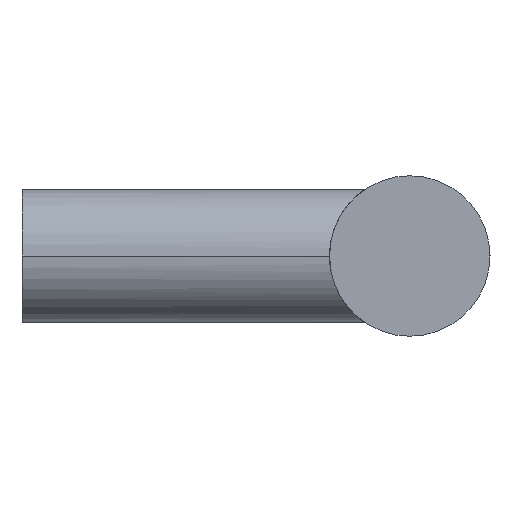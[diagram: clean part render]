
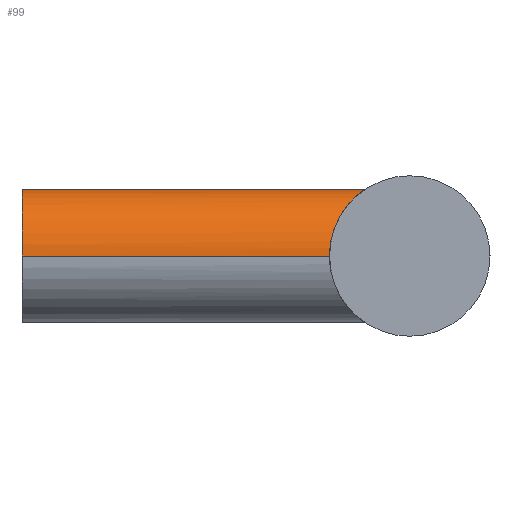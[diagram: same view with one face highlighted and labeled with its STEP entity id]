
A CAD part, left-side view. The second image highlights one B-rep face of the part: STEP entity #99.
In plain terms, the highlighted cylindrical face has radius 5 mm (diameter 10 mm), a partial arc.
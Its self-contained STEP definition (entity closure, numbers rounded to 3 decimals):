
#99 = ADVANCED_FACE( '', ( #258 ), #259, .T. );
#109 = EDGE_CURVE( '', #177, #155, #269, .T. );
#115 = EDGE_CURVE( '', #165, #229, #275, .T. );
#133 = EDGE_CURVE( '', #155, #223, #295, .T. );
#141 = EDGE_CURVE( '', #229, #177, #304, .T. );
#155 = VERTEX_POINT( '', #321 );
#165 = VERTEX_POINT( '', #333 );
#177 = VERTEX_POINT( '', #346 );
#223 = VERTEX_POINT( '', #400 );
#229 = VERTEX_POINT( '', #406 );
#231 = EDGE_CURVE( '', #223, #165, #408, .T. );
#258 = FACE_OUTER_BOUND( '', #426, .T. );
#259 = CYLINDRICAL_SURFACE( '', #427, 5. );
#269 = LINE( '', #443, #444 );
#275 = B_SPLINE_CURVE_WITH_KNOTS( '', 3, ( #452, #453, #454, #455, #456, #457, #458, #459, #460, #461, #462, #463, #464, #465, #466, #467, #468, #469 ), .UNSPECIFIED., .F., .F., ( 4, 2, 2, 2, 2, 2, 2, 2, 4 ), ( 24.483, 25.482, 26.481, 27.479, 28.478, 29.52, 30.561, 31.602, 32.643 ), .UNSPECIFIED. );
#295 = CIRCLE( '', #560, 5. );
#304 = B_SPLINE_CURVE_WITH_KNOTS( '', 3, ( #571, #572, #573, #574, #575, #576, #577, #578, #579, #580, #581, #582, #583, #584, #585, #586, #587, #588 ), .UNSPECIFIED., .F., .F., ( 4, 2, 2, 2, 2, 2, 2, 2, 4 ), ( 0., 1.041, 2.083, 3.124, 4.165, 5.164, 6.163, 7.162, 8.161 ), .UNSPECIFIED. );
#321 = CARTESIAN_POINT( '', ( -5., 0., 0. ) );
#333 = CARTESIAN_POINT( '', ( 5., -23., 0. ) );
#346 = CARTESIAN_POINT( '', ( -5., -23., 0. ) );
#400 = CARTESIAN_POINT( '', ( 5., 0., 0. ) );
#406 = CARTESIAN_POINT( '', ( 0., -25.683, 5. ) );
#408 = LINE( '', #750, #751 );
#426 = EDGE_LOOP( '', ( #767, #768, #769, #770, #771 ) );
#427 = AXIS2_PLACEMENT_3D( '', #772, #773, #774 );
#443 = CARTESIAN_POINT( '', ( -5., 0., 0. ) );
#444 = VECTOR( '', #785, 1. );
#452 = CARTESIAN_POINT( '', ( 5., -23., 0. ) );
#453 = CARTESIAN_POINT( '', ( 5., -23., 0.333 ) );
#454 = CARTESIAN_POINT( '', ( 4.966, -23.028, 0.672 ) );
#455 = CARTESIAN_POINT( '', ( 4.83, -23.141, 1.335 ) );
#456 = CARTESIAN_POINT( '', ( 4.728, -23.225, 1.659 ) );
#457 = CARTESIAN_POINT( '', ( 4.467, -23.437, 2.272 ) );
#458 = CARTESIAN_POINT( '', ( 4.306, -23.566, 2.561 ) );
#459 = CARTESIAN_POINT( '', ( 3.946, -23.847, 3.088 ) );
#460 = CARTESIAN_POINT( '', ( 3.745, -24., 3.326 ) );
#461 = CARTESIAN_POINT( '', ( 3.317, -24.311, 3.754 ) );
#462 = CARTESIAN_POINT( '', ( 3.073, -24.483, 3.957 ) );
#463 = CARTESIAN_POINT( '', ( 2.544, -24.825, 4.316 ) );
#464 = CARTESIAN_POINT( '', ( 2.259, -24.995, 4.472 ) );
#465 = CARTESIAN_POINT( '', ( 1.659, -25.301, 4.728 ) );
#466 = CARTESIAN_POINT( '', ( 1.343, -25.436, 4.828 ) );
#467 = CARTESIAN_POINT( '', ( 0.687, -25.627, 4.964 ) );
#468 = CARTESIAN_POINT( '', ( 0.347, -25.683, 5. ) );
#469 = CARTESIAN_POINT( '', ( 0., -25.683, 5. ) );
#560 = AXIS2_PLACEMENT_3D( '', #809, #810, #811 );
#571 = CARTESIAN_POINT( '', ( 0., -25.683, 5. ) );
#572 = CARTESIAN_POINT( '', ( -0.347, -25.683, 5. ) );
#573 = CARTESIAN_POINT( '', ( -0.687, -25.627, 4.964 ) );
#574 = CARTESIAN_POINT( '', ( -1.343, -25.436, 4.828 ) );
#575 = CARTESIAN_POINT( '', ( -1.659, -25.301, 4.728 ) );
#576 = CARTESIAN_POINT( '', ( -2.259, -24.995, 4.472 ) );
#577 = CARTESIAN_POINT( '', ( -2.544, -24.825, 4.316 ) );
#578 = CARTESIAN_POINT( '', ( -3.073, -24.483, 3.957 ) );
#579 = CARTESIAN_POINT( '', ( -3.317, -24.311, 3.754 ) );
#580 = CARTESIAN_POINT( '', ( -3.745, -24., 3.326 ) );
#581 = CARTESIAN_POINT( '', ( -3.946, -23.847, 3.088 ) );
#582 = CARTESIAN_POINT( '', ( -4.306, -23.566, 2.561 ) );
#583 = CARTESIAN_POINT( '', ( -4.467, -23.437, 2.272 ) );
#584 = CARTESIAN_POINT( '', ( -4.728, -23.225, 1.659 ) );
#585 = CARTESIAN_POINT( '', ( -4.83, -23.141, 1.335 ) );
#586 = CARTESIAN_POINT( '', ( -4.966, -23.028, 0.672 ) );
#587 = CARTESIAN_POINT( '', ( -5., -23., 0.333 ) );
#588 = CARTESIAN_POINT( '', ( -5., -23., 0. ) );
#750 = CARTESIAN_POINT( '', ( 5., 0., 0. ) );
#751 = VECTOR( '', #938, 1. );
#767 = ORIENTED_EDGE( '', *, *, #231, .F. );
#768 = ORIENTED_EDGE( '', *, *, #133, .F. );
#769 = ORIENTED_EDGE( '', *, *, #109, .F. );
#770 = ORIENTED_EDGE( '', *, *, #141, .F. );
#771 = ORIENTED_EDGE( '', *, *, #115, .F. );
#772 = CARTESIAN_POINT( '', ( 0., 0., 0. ) );
#773 = DIRECTION( '', ( 0., 1., 0. ) );
#774 = DIRECTION( '', ( 1., 0., 0. ) );
#785 = DIRECTION( '', ( 0., 1., 0. ) );
#809 = CARTESIAN_POINT( '', ( 0., 0., 0. ) );
#810 = DIRECTION( '', ( 0., 1., 0. ) );
#811 = DIRECTION( '', ( 1., 0., 0. ) );
#938 = DIRECTION( '', ( 0., -1., 0. ) );
